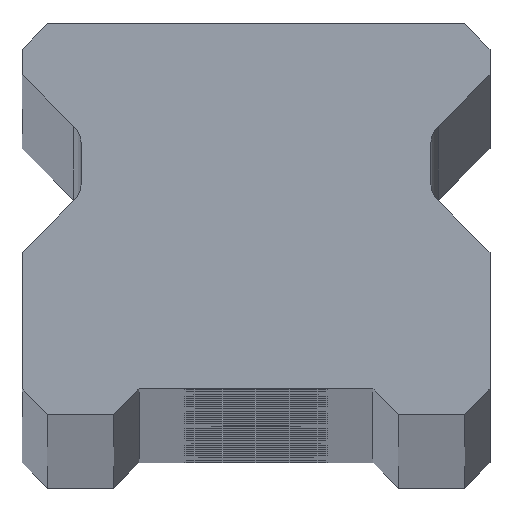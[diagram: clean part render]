
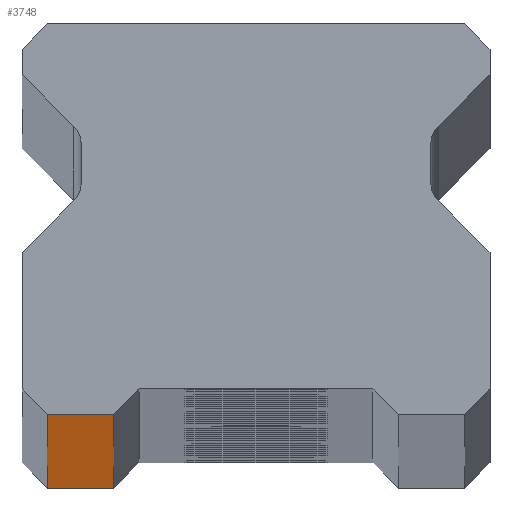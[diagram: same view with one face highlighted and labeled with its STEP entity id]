
A CAD part, top view. The second image highlights one B-rep face of the part: STEP entity #3748.
In plain terms, the highlighted planar face has unit normal (0, -1, 0).
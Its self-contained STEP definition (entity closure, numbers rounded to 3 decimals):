
#82 = VERTEX_POINT ( 'NONE', #1411 ) ;
#621 = CARTESIAN_POINT ( 'NONE',  ( 11.5, 0., 1040. ) ) ;
#772 = ORIENTED_EDGE ( 'NONE', *, *, #1138, .T. ) ;
#972 = ORIENTED_EDGE ( 'NONE', *, *, #4766, .T. ) ;
#978 = DIRECTION ( 'NONE',  ( 1., 0., 0. ) ) ;
#1138 = EDGE_CURVE ( 'NONE', #5946, #82, #6102, .T. ) ;
#1411 = CARTESIAN_POINT ( 'NONE',  ( -7., 0., -1040. ) ) ;
#1464 = VECTOR ( 'NONE', #2403, 1000. ) ;
#1513 = ORIENTED_EDGE ( 'NONE', *, *, #1799, .T. ) ;
#1518 = CARTESIAN_POINT ( 'NONE',  ( 11.5, 0., 1040. ) ) ;
#1600 = VERTEX_POINT ( 'NONE', #5123 ) ;
#1799 = EDGE_CURVE ( 'NONE', #4459, #5946, #5951, .T. ) ;
#1937 = CARTESIAN_POINT ( 'NONE',  ( -10.25, 0., 1040. ) ) ;
#1947 = CARTESIAN_POINT ( 'NONE',  ( -10.25, 0., -1040. ) ) ;
#2403 = DIRECTION ( 'NONE',  ( 0., 0., -1. ) ) ;
#2485 = CARTESIAN_POINT ( 'NONE',  ( -10.25, 0., 1040. ) ) ;
#2907 = VECTOR ( 'NONE', #5589, 1000. ) ;
#2970 = LINE ( 'NONE', #1518, #5866 ) ;
#2976 = EDGE_CURVE ( 'NONE', #4459, #1600, #2970, .T. ) ;
#3233 = VECTOR ( 'NONE', #6100, 1000. ) ;
#3476 = PLANE ( 'NONE',  #3994 ) ;
#3748 = ADVANCED_FACE ( 'NONE', ( #4636 ), #3476, .F. ) ;
#3759 = EDGE_LOOP ( 'NONE', ( #772, #972, #4857, #1513 ) ) ;
#3952 = DIRECTION ( 'NONE',  ( 0., 1., 0. ) ) ;
#3994 = AXIS2_PLACEMENT_3D ( 'NONE', #621, #3952, #4527 ) ;
#4459 = VERTEX_POINT ( 'NONE', #1937 ) ;
#4527 = DIRECTION ( 'NONE',  ( -1., 0., 0. ) ) ;
#4636 = FACE_OUTER_BOUND ( 'NONE', #3759, .T. ) ;
#4766 = EDGE_CURVE ( 'NONE', #82, #1600, #5901, .T. ) ;
#4857 = ORIENTED_EDGE ( 'NONE', *, *, #2976, .F. ) ;
#5123 = CARTESIAN_POINT ( 'NONE',  ( -7., 0., 1040. ) ) ;
#5589 = DIRECTION ( 'NONE',  ( 1., 0., 0. ) ) ;
#5614 = CARTESIAN_POINT ( 'NONE',  ( -7., 0., -1040. ) ) ;
#5866 = VECTOR ( 'NONE', #978, 1000. ) ;
#5901 = LINE ( 'NONE', #5614, #3233 ) ;
#5946 = VERTEX_POINT ( 'NONE', #1947 ) ;
#5951 = LINE ( 'NONE', #2485, #1464 ) ;
#6100 = DIRECTION ( 'NONE',  ( 0., 0., 1. ) ) ;
#6102 = LINE ( 'NONE', #6275, #2907 ) ;
#6275 = CARTESIAN_POINT ( 'NONE',  ( 11.5, 0., -1040. ) ) ;
